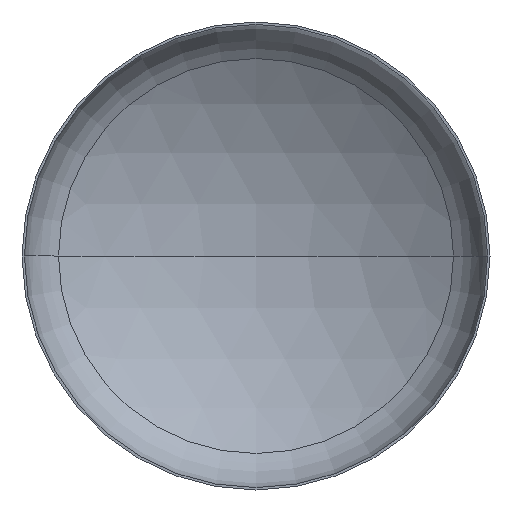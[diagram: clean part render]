
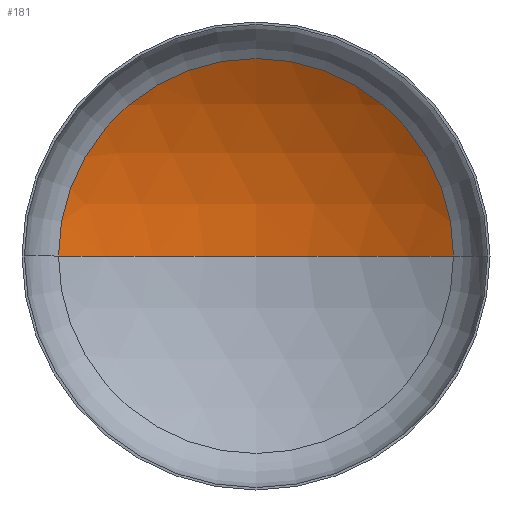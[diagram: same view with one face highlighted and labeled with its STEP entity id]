
A CAD part, front view. The second image highlights one B-rep face of the part: STEP entity #181.
In plain terms, the highlighted spherical face has radius 5600 mm.
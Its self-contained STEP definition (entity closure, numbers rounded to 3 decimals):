
#1 = VERTEX_POINT ( 'NONE', #290 ) ;
#32 = EDGE_CURVE ( 'NONE', #1, #53, #299, .T. ) ;
#36 = EDGE_CURVE ( 'NONE', #88, #1, #248, .T. ) ;
#39 = EDGE_CURVE ( 'NONE', #88, #53, #239, .T. ) ;
#53 = VERTEX_POINT ( 'NONE', #196 ) ;
#55 = ORIENTED_EDGE ( 'NONE', *, *, #39, .F. ) ;
#68 = AXIS2_PLACEMENT_3D ( 'NONE', #367, #312, #310 ) ;
#88 = VERTEX_POINT ( 'NONE', #146 ) ;
#91 = EDGE_LOOP ( 'NONE', ( #55, #191, #194 ) ) ;
#121 = AXIS2_PLACEMENT_3D ( 'NONE', #315, #314, #295 ) ;
#143 = AXIS2_PLACEMENT_3D ( 'NONE', #198, #199, #306 ) ;
#146 = CARTESIAN_POINT ( 'NONE',  ( 0., 1869.825, 0. ) ) ;
#158 = DIRECTION ( 'NONE',  ( -1., 0., 0. ) ) ;
#160 = DIRECTION ( 'NONE',  ( 0., 0., -1. ) ) ;
#181 = ADVANCED_FACE ( 'NONE', ( #208 ), #276, .F. ) ;
#191 = ORIENTED_EDGE ( 'NONE', *, *, #36, .T. ) ;
#194 = ORIENTED_EDGE ( 'NONE', *, *, #32, .T. ) ;
#196 = CARTESIAN_POINT ( 'NONE',  ( -2953.628, 1027.564, 0. ) ) ;
#198 = CARTESIAN_POINT ( 'NONE',  ( 0., -3730.175, 0. ) ) ;
#199 = DIRECTION ( 'NONE',  ( 0., 0., 1. ) ) ;
#208 = FACE_OUTER_BOUND ( 'NONE', #91, .T. ) ;
#239 = CIRCLE ( 'NONE', #143, 5600. ) ;
#248 = CIRCLE ( 'NONE', #121, 5600. ) ;
#276 = SPHERICAL_SURFACE ( 'NONE', #397, 5600. ) ;
#290 = CARTESIAN_POINT ( 'NONE',  ( 2953.628, 1027.564, 0. ) ) ;
#295 = DIRECTION ( 'NONE',  ( -1., 0., 0. ) ) ;
#299 = CIRCLE ( 'NONE', #68, 2953.628 ) ;
#306 = DIRECTION ( 'NONE',  ( 1., 0., 0. ) ) ;
#310 = DIRECTION ( 'NONE',  ( 1., 0., 0. ) ) ;
#312 = DIRECTION ( 'NONE',  ( 0., -1., 0. ) ) ;
#314 = DIRECTION ( 'NONE',  ( 0., 0., -1. ) ) ;
#315 = CARTESIAN_POINT ( 'NONE',  ( 0., -3730.175, 0. ) ) ;
#367 = CARTESIAN_POINT ( 'NONE',  ( 0., 1027.564, 0. ) ) ;
#377 = CARTESIAN_POINT ( 'NONE',  ( 0., -3730.175, 0. ) ) ;
#397 = AXIS2_PLACEMENT_3D ( 'NONE', #377, #160, #158 ) ;
